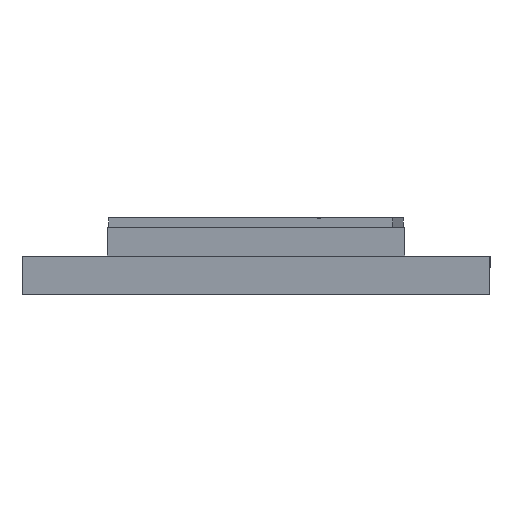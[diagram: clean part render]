
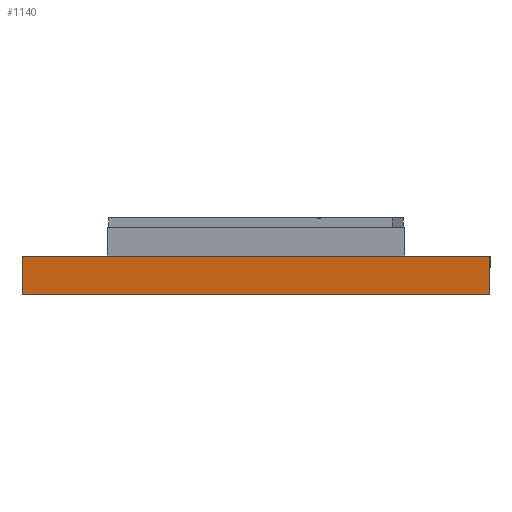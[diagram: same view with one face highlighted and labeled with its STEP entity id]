
A CAD part, left-side view. The second image highlights one B-rep face of the part: STEP entity #1140.
In plain terms, the highlighted planar face has unit normal (-0.99, 0.139, 0).
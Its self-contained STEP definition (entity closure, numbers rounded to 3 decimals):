
#291 = DIRECTION ( 'NONE',  ( 0.139, 0.99, 0. ) ) ;
#613 = VECTOR ( 'NONE', #1466, 1000. ) ;
#831 = LINE ( 'NONE', #2258, #5525 ) ;
#969 = VERTEX_POINT ( 'NONE', #2687 ) ;
#1042 = EDGE_CURVE ( 'NONE', #6091, #5358, #5952, .T. ) ;
#1078 = DIRECTION ( 'NONE',  ( 0.99, -0.139, 0. ) ) ;
#1140 = ADVANCED_FACE ( 'NONE', ( #7305 ), #6050, .F. ) ;
#1466 = DIRECTION ( 'NONE',  ( 0., 0., -1. ) ) ;
#1543 = DIRECTION ( 'NONE',  ( 0.139, 0.99, 0. ) ) ;
#2128 = CARTESIAN_POINT ( 'NONE',  ( 91.045, -38.279, 4. ) ) ;
#2258 = CARTESIAN_POINT ( 'NONE',  ( 92.982, -24.5, 0. ) ) ;
#2487 = CARTESIAN_POINT ( 'NONE',  ( 92.982, -24.5, 0. ) ) ;
#2514 = ORIENTED_EDGE ( 'NONE', *, *, #1042, .F. ) ;
#2631 = CARTESIAN_POINT ( 'NONE',  ( 99.868, 24.5, 0. ) ) ;
#2687 = CARTESIAN_POINT ( 'NONE',  ( 99.868, 24.5, 4. ) ) ;
#3114 = EDGE_CURVE ( 'NONE', #6091, #4951, #831, .T. ) ;
#3264 = ORIENTED_EDGE ( 'NONE', *, *, #5628, .T. ) ;
#3358 = CARTESIAN_POINT ( 'NONE',  ( 92.982, -24.5, 4. ) ) ;
#3379 = DIRECTION ( 'NONE',  ( 0.139, 0.99, 0. ) ) ;
#3411 = ORIENTED_EDGE ( 'NONE', *, *, #3114, .T. ) ;
#3535 = DIRECTION ( 'NONE',  ( 0., 0., 1. ) ) ;
#4113 = VECTOR ( 'NONE', #291, 1000. ) ;
#4951 = VERTEX_POINT ( 'NONE', #3358 ) ;
#5358 = VERTEX_POINT ( 'NONE', #7427 ) ;
#5455 = CARTESIAN_POINT ( 'NONE',  ( 92.077, -30.937, 0. ) ) ;
#5525 = VECTOR ( 'NONE', #3535, 1000. ) ;
#5570 = EDGE_CURVE ( 'NONE', #969, #5358, #7948, .T. ) ;
#5628 = EDGE_CURVE ( 'NONE', #4951, #969, #7267, .T. ) ;
#5865 = AXIS2_PLACEMENT_3D ( 'NONE', #7155, #1078, #1543 ) ;
#5952 = LINE ( 'NONE', #5455, #4113 ) ;
#6050 = PLANE ( 'NONE',  #5865 ) ;
#6091 = VERTEX_POINT ( 'NONE', #2487 ) ;
#6901 = EDGE_LOOP ( 'NONE', ( #3411, #3264, #6956, #2514 ) ) ;
#6956 = ORIENTED_EDGE ( 'NONE', *, *, #5570, .T. ) ;
#7155 = CARTESIAN_POINT ( 'NONE',  ( 92.077, -30.937, 0. ) ) ;
#7267 = LINE ( 'NONE', #2128, #7752 ) ;
#7305 = FACE_OUTER_BOUND ( 'NONE', #6901, .T. ) ;
#7427 = CARTESIAN_POINT ( 'NONE',  ( 99.868, 24.5, 0. ) ) ;
#7752 = VECTOR ( 'NONE', #3379, 1000. ) ;
#7948 = LINE ( 'NONE', #2631, #613 ) ;
